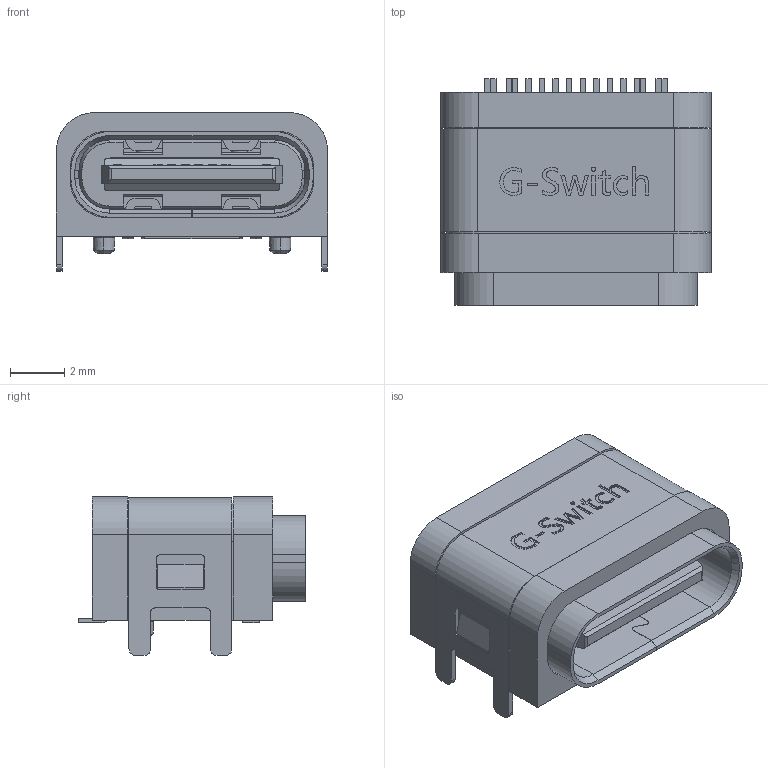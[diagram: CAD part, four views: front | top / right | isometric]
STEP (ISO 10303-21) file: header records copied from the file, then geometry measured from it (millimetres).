
FILE_DESCRIPTION (( 'STEP AP203' ), '1' );
FILE_NAME ('GT-USB-7070A03.STEP', '2023-03-23T10:09:58', ( '' ), ( '' ), 'SwSTEP 2.0', 'SolidWorks 2023', '' );
FILE_SCHEMA (( 'CONFIG_CONTROL_DESIGN' ));
Length unit declared in the file: millimetre
Products named in the file (1): GT-USB-7070A03
Bounding box: 10 x 8.35 x 5.86 mm (x, y, z)
Volume: 223.2 mm3; surface area: 901 mm2
Topology: 1 solids, 8 shells, 1036 faces, 2936 edges, 1915 vertices
Faces by surface type: plane 736, cylinder 205, bspline 48, cone 47
Entity records: 35562 total; most frequent: CARTESIAN_POINT 8535, ORIENTED_EDGE 5872, DIRECTION 5271, EDGE_CURVE 2936, LINE 2321, VECTOR 2321, VERTEX_POINT 1915, AXIS2_PLACEMENT_3D 1475
